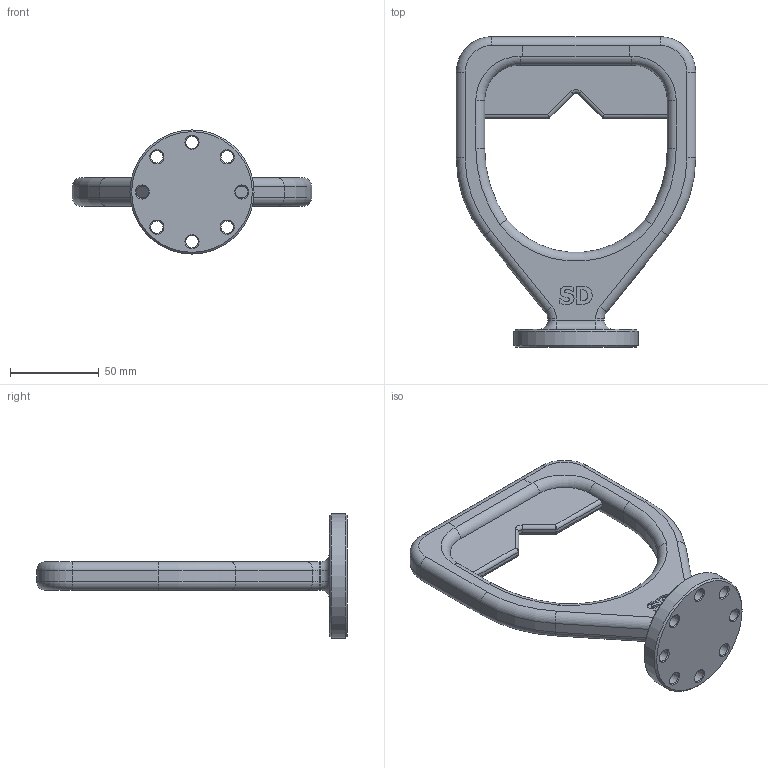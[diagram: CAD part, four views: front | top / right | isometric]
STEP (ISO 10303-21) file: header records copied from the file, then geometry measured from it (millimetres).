
FILE_DESCRIPTION(/* description */ ('ROV - D-HANDLE - SUPER DUPLEX, CASTED - 5232-003'),/* implementation_level */ '2;1');
FILE_NAME(/* name */ 'IKM-6006779.stp',/* time_stamp */ '2025-01-15T09:25:51+01:00',/* author */ ('KateB'),/* organization */ ('IKM Subsea AS'),/* preprocessor_version */ 'ST-DEVELOPER v19.2',/* originating_system */ 'Autodesk Inventor 2023',/* authorisation */ '');
FILE_SCHEMA (('AUTOMOTIVE_DESIGN { 1 0 10303 214 3 1 1 }'));
Length unit declared in the file: millimetre
Products named in the file (1): IKM-6006779
Bounding box: 135 x 175 x 70 mm (x, y, z)
Volume: 176536.2 mm3; surface area: 41653.9 mm2
Topology: 1 solids, 1 shells, 161 faces, 405 edges, 244 vertices
Faces by surface type: cylinder 53, plane 34, bspline 28, torus 28, cone 18
Full cylindrical faces by diameter (mm): 7 x8, 70 x1
Entity records: 5200 total; most frequent: CARTESIAN_POINT 1348, ORIENTED_EDGE 802, DIRECTION 781, EDGE_CURVE 401, AXIS2_PLACEMENT_3D 298, VERTEX_POINT 244, LINE 185, VECTOR 185
